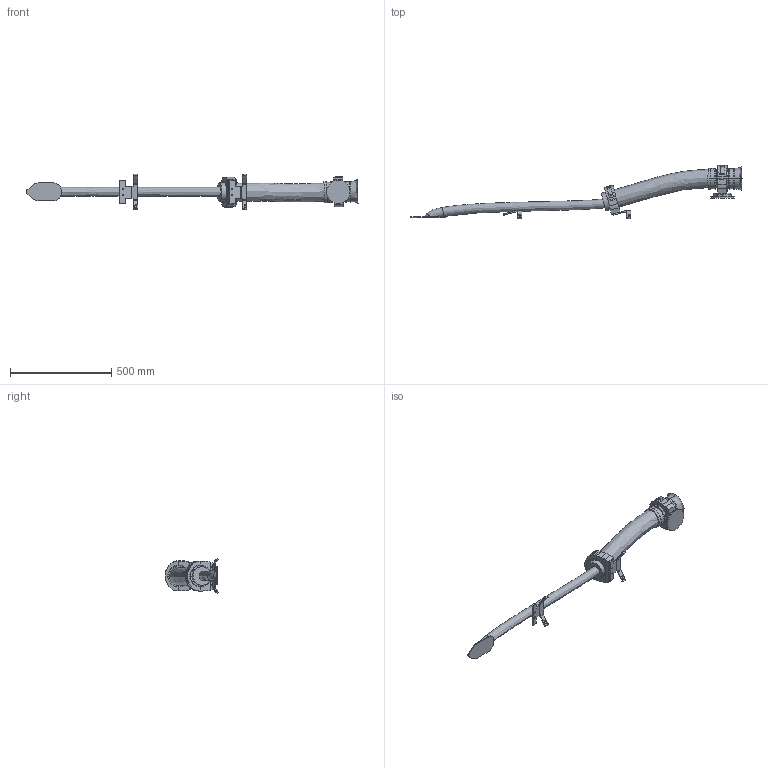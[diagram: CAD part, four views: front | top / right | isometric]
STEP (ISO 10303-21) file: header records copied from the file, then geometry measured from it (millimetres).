
FILE_DESCRIPTION (( 'STEP AP214' ), '1' );
FILE_NAME ('IRB6750S-LID_ALL-390-OC_00_LINK04_CABLE.step', '2026-05-13T05:41:05', ( '' ), ( '' ), 'SwSTEP 2.0', 'SolidWorks 2024', '' );
FILE_SCHEMA (( 'AUTOMOTIVE_DESIGN' ));
Length unit declared in the file: millimetre
Products named in the file (1): IRB6750S-LID_ALL-390-OC_00_LINK04_CABLE
Bounding box: 1639.81 x 265.3 x 174.65 mm (x, y, z)
Volume: 7312228.7 mm3; surface area: 512409.1 mm2
Topology: 1 solids, 2 shells, 426 faces, 1075 edges, 685 vertices
Faces by surface type: plane 240, cylinder 140, cone 18, bspline 13, sphere 13, torus 2
Full cylindrical faces by diameter (mm): 6 x2, 6.8 x4, 10.22 x2, 12 x4, 90 x2
Entity records: 20117 total; most frequent: CARTESIAN_POINT 5321, ORIENTED_EDGE 2094, DIRECTION 2091, EDGE_CURVE 1047, AXIS2_PLACEMENT_3D 763, VERTEX_POINT 675, LINE 565, VECTOR 565
